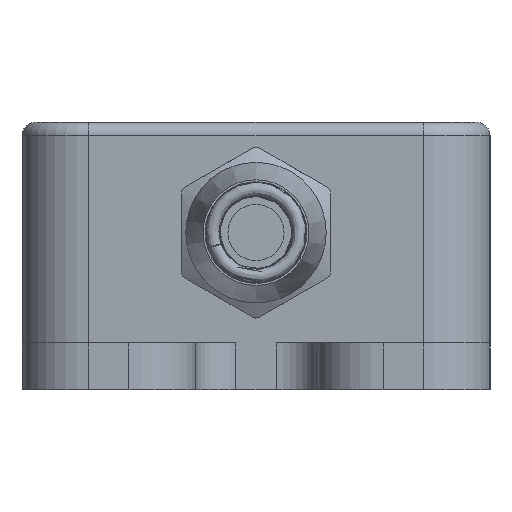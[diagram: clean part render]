
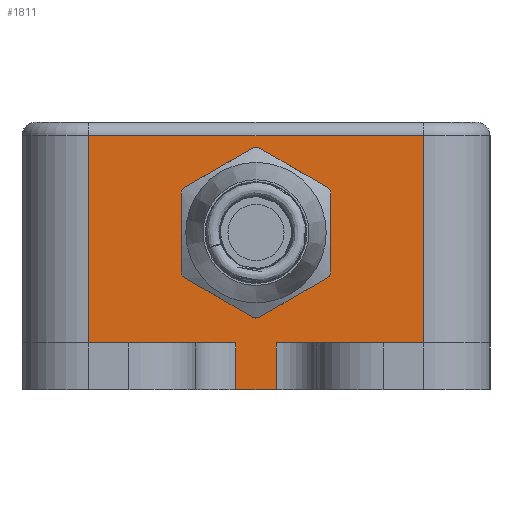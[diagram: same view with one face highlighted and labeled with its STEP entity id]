
A CAD part, left-side view. The second image highlights one B-rep face of the part: STEP entity #1811.
In plain terms, the highlighted planar face has unit normal (-1, 0, 0).
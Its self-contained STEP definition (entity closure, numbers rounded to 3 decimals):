
#611=LINE('',#10619,#1040);
#619=LINE('',#10645,#1048);
#650=LINE('',#10738,#1079);
#651=LINE('',#10744,#1080);
#652=LINE('',#10748,#1081);
#653=LINE('',#10749,#1082);
#654=LINE('',#10751,#1083);
#655=LINE('',#10752,#1084);
#1040=VECTOR('',#7290,1.);
#1048=VECTOR('',#7314,1.);
#1079=VECTOR('',#7415,1.);
#1080=VECTOR('',#7422,1.);
#1081=VECTOR('',#7427,1.);
#1082=VECTOR('',#7428,1.);
#1083=VECTOR('',#7429,1.);
#1084=VECTOR('',#7430,1.);
#1336=PLANE('',#6362);
#1811=ADVANCED_FACE('',(#2187,#2188),#1336,.T.);
#2187=FACE_BOUND('',#2480,.T.);
#2188=FACE_BOUND('',#2481,.T.);
#2480=EDGE_LOOP('',(#3485));
#2481=EDGE_LOOP('',(#3486,#3487,#3488,#3489,#3490,#3491,#3492,#3493));
#3485=ORIENTED_EDGE('',*,*,#5278,.F.);
#3486=ORIENTED_EDGE('',*,*,#5216,.F.);
#3487=ORIENTED_EDGE('',*,*,#5279,.T.);
#3488=ORIENTED_EDGE('',*,*,#5274,.F.);
#3489=ORIENTED_EDGE('',*,*,#5277,.F.);
#3490=ORIENTED_EDGE('',*,*,#5280,.T.);
#3491=ORIENTED_EDGE('',*,*,#5281,.T.);
#3492=ORIENTED_EDGE('',*,*,#5230,.F.);
#3493=ORIENTED_EDGE('',*,*,#5282,.T.);
#4576=VERTEX_POINT('',#10618);
#4577=VERTEX_POINT('',#10620);
#4586=VERTEX_POINT('',#10644);
#4587=VERTEX_POINT('',#10646);
#4605=VERTEX_POINT('',#10737);
#4606=VERTEX_POINT('',#10739);
#4607=VERTEX_POINT('',#10743);
#4608=VERTEX_POINT('',#10747);
#4609=VERTEX_POINT('',#10750);
#5216=EDGE_CURVE('',#4576,#4577,#611,.T.);
#5230=EDGE_CURVE('',#4586,#4587,#619,.T.);
#5274=EDGE_CURVE('',#4605,#4606,#650,.T.);
#5277=EDGE_CURVE('',#4607,#4605,#651,.T.);
#5278=EDGE_CURVE('',#4608,#4608,#5784,.T.);
#5279=EDGE_CURVE('',#4576,#4606,#652,.T.);
#5280=EDGE_CURVE('',#4607,#4609,#653,.T.);
#5281=EDGE_CURVE('',#4609,#4587,#654,.T.);
#5282=EDGE_CURVE('',#4586,#4577,#655,.T.);
#5784=CIRCLE('',#6361,3.4);
#6361=AXIS2_PLACEMENT_3D('',#10746,#7425,#7426);
#6362=AXIS2_PLACEMENT_3D('',#10753,#7431,#7432);
#7290=DIRECTION('',(0.,1.,0.));
#7314=DIRECTION('',(0.,1.,0.));
#7415=DIRECTION('',(0.,1.,0.));
#7422=DIRECTION('',(0.,0.,-1.));
#7425=DIRECTION('',(-1.,0.,0.));
#7426=DIRECTION('',(0.,0.,1.));
#7427=DIRECTION('',(0.,0.,1.));
#7428=DIRECTION('',(0.,1.,0.));
#7429=DIRECTION('',(0.,0.,-1.));
#7430=DIRECTION('',(0.,0.,-1.));
#7431=DIRECTION('',(-1.,0.,0.));
#7432=DIRECTION('',(0.,0.,-1.));
#10618=CARTESIAN_POINT('',(70.,-97.5,3.5));
#10619=CARTESIAN_POINT('',(70.,-95.5,3.5));
#10620=CARTESIAN_POINT('',(70.,-94.5,3.5));
#10644=CARTESIAN_POINT('',(70.,-94.5,7.));
#10645=CARTESIAN_POINT('',(70.,-95.5,7.));
#10646=CARTESIAN_POINT('',(70.,-83.5,7.));
#10737=CARTESIAN_POINT('',(70.,-108.5,7.));
#10738=CARTESIAN_POINT('',(70.,-95.5,7.));
#10739=CARTESIAN_POINT('',(70.,-97.5,7.));
#10743=CARTESIAN_POINT('',(70.,-108.5,22.5));
#10744=CARTESIAN_POINT('',(70.,-108.5,-4.));
#10746=CARTESIAN_POINT('',(70.,-96.,15.25));
#10747=CARTESIAN_POINT('',(70.,-96.,18.65));
#10748=CARTESIAN_POINT('',(70.,-97.5,-4.));
#10749=CARTESIAN_POINT('',(70.,-83.5,22.5));
#10750=CARTESIAN_POINT('',(70.,-83.5,22.5));
#10751=CARTESIAN_POINT('',(70.,-83.5,-4.));
#10752=CARTESIAN_POINT('',(70.,-94.5,-4.));
#10753=CARTESIAN_POINT('',(70.,-95.5,-4.));
